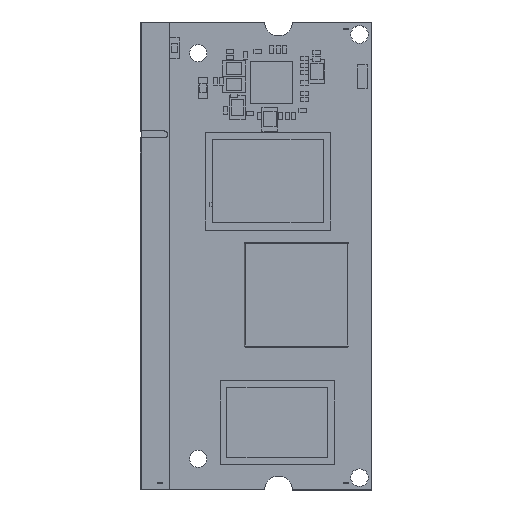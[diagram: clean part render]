
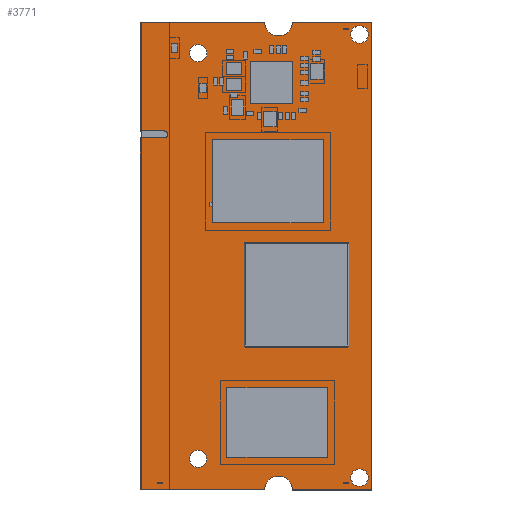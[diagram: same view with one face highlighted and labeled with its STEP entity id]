
A CAD part, top view. The second image highlights one B-rep face of the part: STEP entity #3771.
In plain terms, the highlighted planar face has unit normal (0, 0, 1).
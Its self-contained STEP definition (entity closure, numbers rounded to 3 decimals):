
#3771=ADVANCED_FACE('',(#6002,#6003,#6004,#6005,#6006),#6007,.T.);
#6002=FACE_BOUND('',#7704,.T.);
#6003=FACE_BOUND('',#7705,.T.);
#6004=FACE_BOUND('',#7706,.T.);
#6005=FACE_BOUND('',#7707,.T.);
#6006=FACE_OUTER_BOUND('',#7708,.T.);
#6007=PLANE('',#7709);
#7704=EDGE_LOOP('',(#8709));
#7705=EDGE_LOOP('',(#8710));
#7706=EDGE_LOOP('',(#8711));
#7707=EDGE_LOOP('',(#8712));
#7708=EDGE_LOOP('',(#8713,#8714,#8715,#8716,#8717,#8718,#8719,#8720,#8721,#8722,#8723,#8724,#8725,#8726,#8727,#8728,#8729));
#7709=AXIS2_PLACEMENT_3D('',#8730,#8731,#8732);
#8709=ORIENTED_EDGE('',*,*,#11093,.T.);
#8710=ORIENTED_EDGE('',*,*,#11096,.T.);
#8711=ORIENTED_EDGE('',*,*,#11099,.T.);
#8712=ORIENTED_EDGE('',*,*,#11102,.T.);
#8713=ORIENTED_EDGE('',*,*,#11112,.T.);
#8714=ORIENTED_EDGE('',*,*,#11117,.T.);
#8715=ORIENTED_EDGE('',*,*,#11119,.T.);
#8716=ORIENTED_EDGE('',*,*,#11120,.T.);
#8717=ORIENTED_EDGE('',*,*,#11121,.T.);
#8718=ORIENTED_EDGE('',*,*,#11122,.T.);
#8719=ORIENTED_EDGE('',*,*,#11123,.T.);
#8720=ORIENTED_EDGE('',*,*,#11124,.T.);
#8721=ORIENTED_EDGE('',*,*,#11125,.T.);
#8722=ORIENTED_EDGE('',*,*,#11126,.T.);
#8723=ORIENTED_EDGE('',*,*,#11127,.T.);
#8724=ORIENTED_EDGE('',*,*,#11107,.T.);
#8725=ORIENTED_EDGE('',*,*,#11128,.T.);
#8726=ORIENTED_EDGE('',*,*,#11129,.T.);
#8727=ORIENTED_EDGE('',*,*,#11130,.T.);
#8728=ORIENTED_EDGE('',*,*,#11131,.T.);
#8729=ORIENTED_EDGE('',*,*,#11132,.T.);
#8730=CARTESIAN_POINT('',(-17.188,34.424,0.965));
#8731=DIRECTION('',(0.,0.,1.0));
#8732=DIRECTION('',(1.0,0.0,0.));
#11093=EDGE_CURVE('',#12011,#12011,#12012,.T.);
#11096=EDGE_CURVE('',#12016,#12016,#12017,.T.);
#11099=EDGE_CURVE('',#12021,#12021,#12022,.T.);
#11102=EDGE_CURVE('',#12026,#12026,#12027,.T.);
#11107=EDGE_CURVE('',#12036,#12034,#12037,.T.);
#11112=EDGE_CURVE('',#12045,#12043,#12046,.T.);
#11117=EDGE_CURVE('',#12043,#12051,#12053,.T.);
#11119=EDGE_CURVE('',#12051,#12055,#12056,.T.);
#11120=EDGE_CURVE('',#12055,#12057,#12058,.T.);
#11121=EDGE_CURVE('',#12057,#12059,#12060,.T.);
#11122=EDGE_CURVE('',#12059,#12061,#12062,.T.);
#11123=EDGE_CURVE('',#12061,#12063,#12064,.T.);
#11124=EDGE_CURVE('',#12063,#12065,#12066,.T.);
#11125=EDGE_CURVE('',#12065,#12067,#12068,.T.);
#11126=EDGE_CURVE('',#12067,#12069,#12070,.T.);
#11127=EDGE_CURVE('',#12069,#12036,#12071,.T.);
#11128=EDGE_CURVE('',#12034,#12072,#12073,.T.);
#11129=EDGE_CURVE('',#12072,#12074,#12075,.T.);
#11130=EDGE_CURVE('',#12074,#12076,#12077,.T.);
#11131=EDGE_CURVE('',#12076,#12078,#12079,.T.);
#11132=EDGE_CURVE('',#12078,#12045,#12080,.T.);
#12011=VERTEX_POINT('',#13315);
#12012=CIRCLE('',#13316,1.25);
#12016=VERTEX_POINT('',#13320);
#12017=CIRCLE('',#13321,1.25);
#12021=VERTEX_POINT('',#13325);
#12022=CIRCLE('',#13326,1.25);
#12026=VERTEX_POINT('',#13330);
#12027=CIRCLE('',#13331,1.25);
#12034=VERTEX_POINT('',#13339);
#12036=VERTEX_POINT('',#13342);
#12037=LINE('',#13343,#13344);
#12043=VERTEX_POINT('',#13352);
#12045=VERTEX_POINT('',#13355);
#12046=LINE('',#13356,#13357);
#12051=VERTEX_POINT('',#13364);
#12053=LINE('',#13367,#13368);
#12055=VERTEX_POINT('',#13370);
#12056=CIRCLE('',#13371,2.0);
#12057=VERTEX_POINT('',#13372);
#12058=CIRCLE('',#13373,2.0);
#12059=VERTEX_POINT('',#13374);
#12060=CIRCLE('',#13375,0.5);
#12061=VERTEX_POINT('',#13376);
#12062=LINE('',#13377,#13378);
#12063=VERTEX_POINT('',#13379);
#12064=LINE('',#13380,#13381);
#12065=VERTEX_POINT('',#13382);
#12066=LINE('',#13383,#13384);
#12067=VERTEX_POINT('',#13385);
#12068=CIRCLE('',#13386,2.0);
#12069=VERTEX_POINT('',#13387);
#12070=CIRCLE('',#13388,2.0);
#12071=LINE('',#13389,#13390);
#12072=VERTEX_POINT('',#13391);
#12073=LINE('',#13392,#13393);
#12074=VERTEX_POINT('',#13394);
#12075=CIRCLE('',#13395,0.5);
#12076=VERTEX_POINT('',#13396);
#12077=CIRCLE('',#13397,0.5);
#12078=VERTEX_POINT('',#13398);
#12079=CIRCLE('',#13399,0.5);
#12080=LINE('',#13400,#13401);
#13315=CARTESIAN_POINT('',(-1.8,67.05,0.965));
#13316=AXIS2_PLACEMENT_3D('',#15157,#15158,#15159);
#13320=CARTESIAN_POINT('',(-1.8,3.05,0.965));
#13321=AXIS2_PLACEMENT_3D('',#15163,#15164,#15165);
#13325=CARTESIAN_POINT('',(-25.1,64.35,0.965));
#13326=AXIS2_PLACEMENT_3D('',#15169,#15170,#15171);
#13330=CARTESIAN_POINT('',(-25.1,5.75,0.965));
#13331=AXIS2_PLACEMENT_3D('',#15175,#15176,#15177);
#13339=CARTESIAN_POINT('',(-33.5,51.86,0.965));
#13342=CARTESIAN_POINT('',(-33.5,67.604,0.965));
#13343=CARTESIAN_POINT('',(-33.5,51.267,0.965));
#13344=VECTOR('',#15183,1.0);
#13352=CARTESIAN_POINT('',(-33.5,0.01,0.965));
#13355=CARTESIAN_POINT('',(-33.5,50.854,0.965));
#13356=CARTESIAN_POINT('',(-33.5,51.267,0.965));
#13357=VECTOR('',#15187,1.0);
#13364=CARTESIAN_POINT('',(-15.501,0.01,0.965));
#13367=CARTESIAN_POINT('',(-25.594,0.01,0.965));
#13368=VECTOR('',#15191,1.0);
#13370=CARTESIAN_POINT('',(-15.476,0.32,0.965));
#13371=AXIS2_PLACEMENT_3D('',#15192,#15193,#15194);
#13372=CARTESIAN_POINT('',(-11.5,0.01,0.965));
#13373=AXIS2_PLACEMENT_3D('',#15195,#15196,#15197);
#13374=CARTESIAN_POINT('',(-11.5,0.004,0.965));
#13375=AXIS2_PLACEMENT_3D('',#15198,#15199,#15200);
#13376=CARTESIAN_POINT('',(-0.001,0.004,0.965));
#13377=CARTESIAN_POINT('',(-5.751,0.004,0.965));
#13378=VECTOR('',#15201,1.0);
#13379=CARTESIAN_POINT('',(-0.001,67.604,0.965));
#13380=CARTESIAN_POINT('',(-0.001,33.804,0.965));
#13381=VECTOR('',#15202,1.0);
#13382=CARTESIAN_POINT('',(-11.5,67.604,0.965));
#13383=CARTESIAN_POINT('',(-5.751,67.604,0.965));
#13384=VECTOR('',#15203,1.0);
#13385=CARTESIAN_POINT('',(-11.525,67.294,0.965));
#13386=AXIS2_PLACEMENT_3D('',#15204,#15205,#15206);
#13387=CARTESIAN_POINT('',(-15.501,67.604,0.965));
#13388=AXIS2_PLACEMENT_3D('',#15207,#15208,#15209);
#13389=CARTESIAN_POINT('',(-24.501,67.604,0.965));
#13390=VECTOR('',#15210,1.0);
#13391=CARTESIAN_POINT('',(-30.0,51.86,0.965));
#13392=CARTESIAN_POINT('',(-25.544,51.86,0.965));
#13393=VECTOR('',#15211,1.0);
#13394=CARTESIAN_POINT('',(-29.5,51.36,0.965));
#13395=AXIS2_PLACEMENT_3D('',#15212,#15213,#15214);
#13396=CARTESIAN_POINT('',(-29.507,51.279,0.965));
#13397=AXIS2_PLACEMENT_3D('',#15215,#15216,#15217);
#13398=CARTESIAN_POINT('',(-30.001,50.854,0.965));
#13399=AXIS2_PLACEMENT_3D('',#15218,#15219,#15220);
#13400=CARTESIAN_POINT('',(-31.751,50.854,0.965));
#13401=VECTOR('',#15221,1.0);
#15157=CARTESIAN_POINT('',(-1.8,65.8,0.965));
#15158=DIRECTION('',(0.,0.,-1.0));
#15159=DIRECTION('',(0.,1.0,0.));
#15163=CARTESIAN_POINT('',(-1.8,1.8,0.965));
#15164=DIRECTION('',(0.,0.,-1.0));
#15165=DIRECTION('',(0.,1.0,0.));
#15169=CARTESIAN_POINT('',(-25.1,63.1,0.965));
#15170=DIRECTION('',(0.,0.,-1.0));
#15171=DIRECTION('',(0.,1.0,0.));
#15175=CARTESIAN_POINT('',(-25.1,4.5,0.965));
#15176=DIRECTION('',(0.,0.,-1.0));
#15177=DIRECTION('',(0.,1.0,0.));
#15183=DIRECTION('',(0.0,-1.0,0.));
#15187=DIRECTION('',(0.0,-1.0,0.));
#15191=DIRECTION('',(1.0,0.,0.));
#15192=CARTESIAN_POINT('',(-13.501,0.004,0.965));
#15193=DIRECTION('',(0.0,0.0,-1.0));
#15194=DIRECTION('',(-1.0,0.0,0.0));
#15195=CARTESIAN_POINT('',(-13.5,0.01,0.965));
#15196=DIRECTION('',(0.,0.,-1.0));
#15197=DIRECTION('',(-1.0,0.,0.));
#15198=CARTESIAN_POINT('',(-12.0,0.01,0.965));
#15199=DIRECTION('',(0.,0.,-1.0));
#15200=DIRECTION('',(1.0,0.,0.));
#15201=DIRECTION('',(1.0,0.,0.0));
#15202=DIRECTION('',(0.,1.0,0.0));
#15203=DIRECTION('',(-1.0,0.0,0.0));
#15204=CARTESIAN_POINT('',(-13.5,67.61,0.965));
#15205=DIRECTION('',(0.,0.,-1.0));
#15206=DIRECTION('',(1.0,0.,0.));
#15207=CARTESIAN_POINT('',(-13.501,67.604,0.965));
#15208=DIRECTION('',(0.0,0.0,-1.0));
#15209=DIRECTION('',(1.0,0.0,0.0));
#15210=DIRECTION('',(-1.0,0.0,0.0));
#15211=DIRECTION('',(1.0,0.0,0.));
#15212=CARTESIAN_POINT('',(-30.0,51.36,0.965));
#15213=DIRECTION('',(0.,0.,-1.0));
#15214=DIRECTION('',(0.,1.0,0.));
#15215=CARTESIAN_POINT('',(-30.0,51.36,0.965));
#15216=DIRECTION('',(0.,0.,-1.0));
#15217=DIRECTION('',(1.0,0.,0.));
#15218=CARTESIAN_POINT('',(-30.001,51.354,0.965));
#15219=DIRECTION('',(0.0,0.0,-1.0));
#15220=DIRECTION('',(0.0,1.0,0.0));
#15221=DIRECTION('',(-1.0,0.0,0.0));
